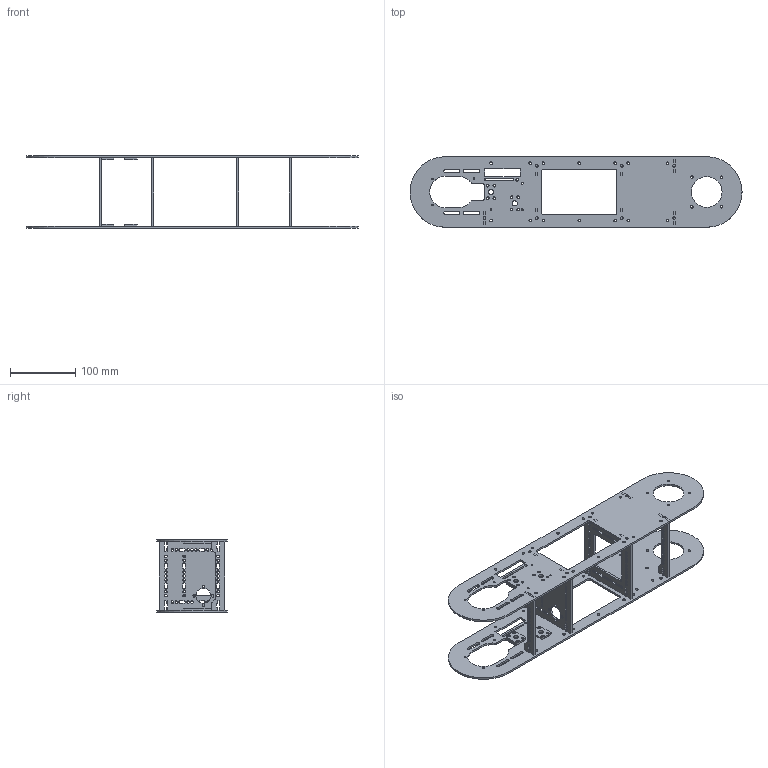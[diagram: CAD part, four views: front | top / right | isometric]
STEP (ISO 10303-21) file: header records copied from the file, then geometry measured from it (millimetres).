
FILE_DESCRIPTION(/* description */ ('Unknown'),/* implementation_level */ '2;1');
FILE_NAME(/* name */ 'ASM01',/* time_stamp */ '2025-10-07T10:39:00+02:00',/* author */ ('Unknown'),/* organization */ ('Unknown'),/* preprocessor_version */ 'ST-DEVELOPER v19.4',/* originating_system */ 'Solid Edge',/* authorisation */ 'Unknown');
FILE_SCHEMA (('AUTOMOTIVE_DESIGN {1 0 10303 214 3 1 1}'));
Length unit declared in the file: millimetre
Products named in the file (7): ASM01; PSM01; PSM03; PSM04; PSM05; PSM02; PSM06
Assembly tree (11 placements, depth 2):
  ASM01
    PSM01
    PSM03
    PSM04
    PSM05  x3
    PSM02
    PSM06  x4
Bounding box: 508 x 108 x 111 mm (x, y, z)
Volume: 287344.1 mm3; surface area: 224160.7 mm2
Topology: 11 solids, 11 shells, 796 faces, 2423 edges, 1649 vertices
Faces by surface type: plane 474, cylinder 322
Full cylindrical faces by diameter (mm): 2.5 x12, 4 x175, 8 x8, 23 x1, 47 x2
Entity records: 21289 total; most frequent: CARTESIAN_POINT 3557, DIRECTION 3494, ORIENTED_EDGE 3364, EDGE_CURVE 1682, EDGE_LOOP 1248, FACE_BOUND 1248, VERTEX_POINT 1234, AXIS2_PLACEMENT_3D 1171
